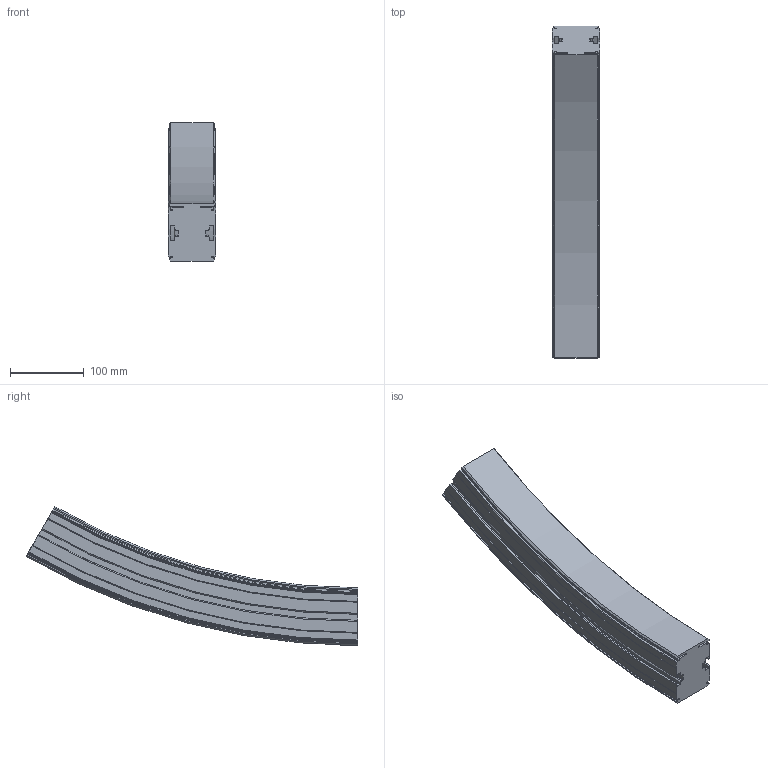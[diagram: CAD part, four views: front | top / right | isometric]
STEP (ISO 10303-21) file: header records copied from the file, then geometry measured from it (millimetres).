
FILE_DESCRIPTION(/* description */ ('VERTIKALKURVA S620 R860'),/* implementation_level */ '2;1');
FILE_NAME(/* name */ '\\carryline.intra\privat\users\mathias\Desktop\Tillfälliga filer\620-5695+620-2000-NER-01.stp',/* time_stamp */ '2018-12-06T07:05:29+01:00',/* author */ ('MD'),/* organization */ ('CARRYLINE'),/* preprocessor_version */ 'ST-DEVELOPER v17',/* originating_system */ 'Autodesk Inventor 2018',/* authorisation */ '');
FILE_SCHEMA (('AUTOMOTIVE_DESIGN { 1 0 10303 214 3 1 1 }'));
Length unit declared in the file: millimetre
Products named in the file (1): 620-5695+620-2000-NER-01
Bounding box: 64 x 449 x 187.86 mm (x, y, z)
Volume: 2009196.8 mm3; surface area: 223962.6 mm2
Topology: 1 solids, 1 shells, 149 faces, 426 edges, 284 vertices
Faces by surface type: plane 54, cylinder 37, torus 28, cone 16, bspline 14
Entity records: 9536 total; most frequent: CARTESIAN_POINT 5516, ORIENTED_EDGE 852, DIRECTION 836, EDGE_CURVE 426, AXIS2_PLACEMENT_3D 315, VERTEX_POINT 284, LINE 206, VECTOR 206
